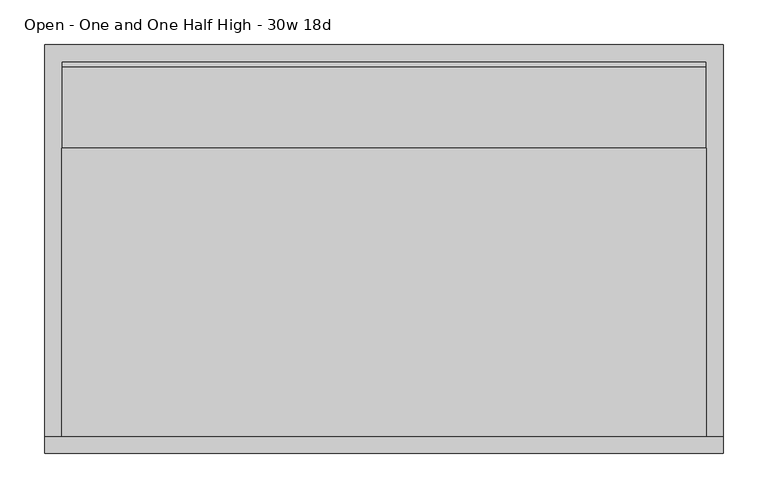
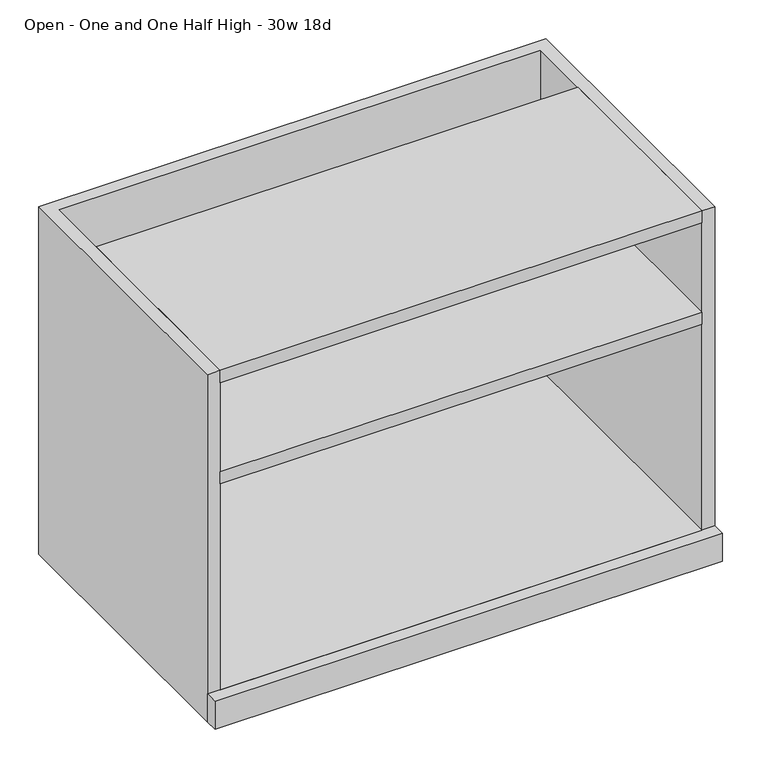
"""IFC4 building model written with IfcOpenShell, lengths in millimetres: furniture geometry, Haworth_Masters_AttachedStorage : Open - One and One Half High - 30w 18d."""

from ifc_helpers import new_model, si_unit, frame, origin, origin_with_axes, place, context, project, spatial, polyline, outline, extrude, source, transform, mapped, element, save


def open_one_and_one_half_high_30w_18d_b8389651(model_context):
    return source(origin(), model_context, "Body", "SweptSolid", [
        extrude(outline(polyline([(439.7375, -120.65), (439.7375, -539.75), (-280.9875, -539.75), (-280.9875, -120.65), (439.7375, -120.65)])), origin_with_axes(), (0.0, 0.0, 1.0), 44.45),
        extrude(outline(polyline([(439.7375, -127.0), (439.7375, -539.75), (-280.9875, -539.75), (-280.9875, -127.0), (439.7375, -127.0)])), frame((0.0, 0.0, 369.8875), z_axis=(0.0, 0.0, 1.0), x_axis=(1.0, 0.0, 0.0)), (0.0, 0.0, 1.0), 19.05),
        extrude(outline(polyline([(458.7875, -539.75), (458.7875, -558.8), (-300.0375, -558.8), (-300.0375, -539.75), (458.7875, -539.75)])), origin_with_axes(), (0.0, 0.0, 1.0), 44.45),
        extrude(outline(polyline([(439.7375, -217.4875), (439.7375, -539.75), (-280.9875, -539.75), (-280.9875, -217.4875), (439.7375, -217.4875)])), frame((0.0, 0.0, 530.225), z_axis=(0.0, 0.0, 1.0), x_axis=(1.0, 0.0, 0.0)), (0.0, 0.0, 1.0), 19.05),
        extrude(outline(polyline([(458.7875, -101.6), (458.7875, -539.75), (439.7375, -539.75), (439.7375, -120.65), (-280.9875, -120.65), (-280.9875, -539.75), (-300.0375, -539.75), (-300.0375, -101.6), (458.7875, -101.6)])), origin_with_axes(), (0.0, 0.0, 1.0), 549.275),
    ])


if __name__ == "__main__":
    model = new_model("IFC4")
    model_context = context("Model", 3, world=origin())
    ifc_project = project(units=[si_unit("LENGTHUNIT", "METRE", prefix="MILLI")], contexts=[model_context])
    site = spatial("IfcSite", under=ifc_project)
    building = spatial("IfcBuilding", under=site)
    placement = place(None, origin())
    open_one_and_one_half_high_30w_18d_shape = open_one_and_one_half_high_30w_18d_b8389651(model_context)
    element("IfcFurniture", 1, ObjectType="Haworth_Masters_AttachedStorage : Open - One and One Half High - 30w 18d", at=placement, inside=building, context=model_context, shape_type="MappedRepresentation", body=[
        mapped(open_one_and_one_half_high_30w_18d_shape, transform((0.0, 0.0, 0.0), x_axis=(1.0, 0.0, 0.0), y_axis=(0.0, 1.0, 0.0), z_axis=(0.0, 0.0, 1.0))),
    ])
    save(model, "model.ifc")
